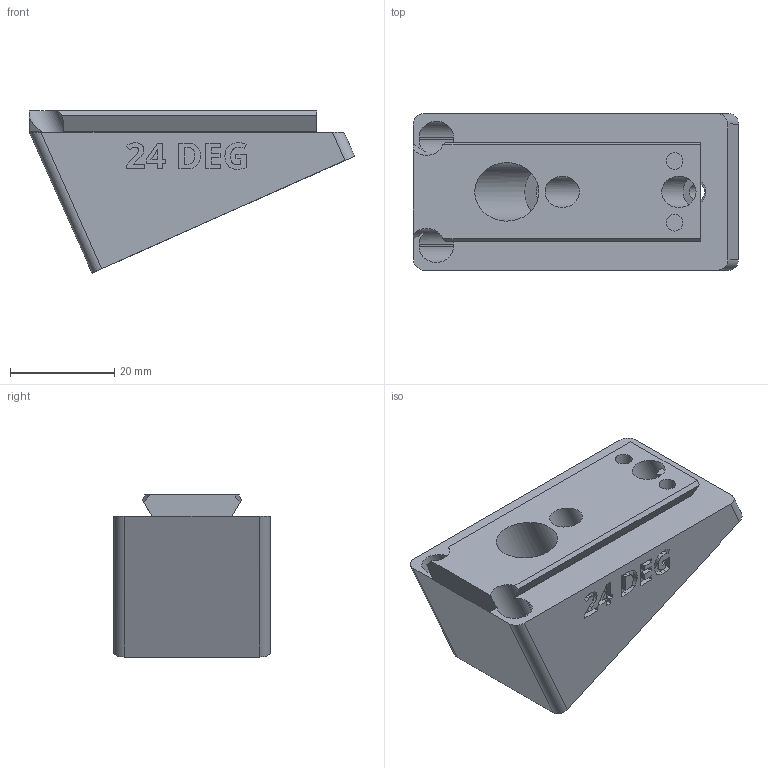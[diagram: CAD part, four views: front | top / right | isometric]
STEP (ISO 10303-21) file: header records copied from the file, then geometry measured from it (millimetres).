
FILE_DESCRIPTION(/* description */ ('STEP AP242 Edition 2','CAx-IF Rec.Pracs.---Representation and Presentation of Product Manufacturing Information (PMI)---4.0---2014-10-13','CAx-IF Rec.Pracs.---3D Tessellated Geometry---0.4---2014-09-14','2;1','CAx-IF Rec.Pracs.---User Defined Attributes---1.5---2016-08-15'),/* implementation_level */ '2;1');
FILE_NAME(/* name */ 'Camera Wedges - CAMERA MOUNTING WEDGE, POS, 24 DEG',/* time_stamp */ '2026-07-08T20:38:44Z',/* author */ (''),/* organization */ (''),/* preprocessor_version */ 'ST-DEVELOPER v20',/* originating_system */ 'ONSHAPE BY PTC INC, 1.217',/* authorisation */ ' ');
FILE_SCHEMA (('AP242_MANAGED_MODEL_BASED_3D_ENGINEERING_MIM_LF { 1 0 10303 442 3 1 4 }'));
Length unit declared in the file: metre
Products named in the file (1): CAMERA MOUNTING WEDGE, POS, 24 DEG
Bounding box: 62.24 x 30 x 31.04 mm (x, y, z)
Volume: 26659.2 mm3; surface area: 9814 mm2
Topology: 1 solids, 1 shells, 259 faces, 715 edges, 477 vertices
Faces by surface type: plane 157, cylinder 58, bspline 44
Full cylindrical faces by diameter (mm): 3.2 x4, 6 x2, 6.4 x1, 11.2 x1
Entity records: 8362 total; most frequent: CARTESIAN_POINT 1922, ORIENTED_EDGE 1408, DIRECTION 1178, EDGE_CURVE 704, LINE 486, VECTOR 486, VERTEX_POINT 474, AXIS2_PLACEMENT_3D 346
